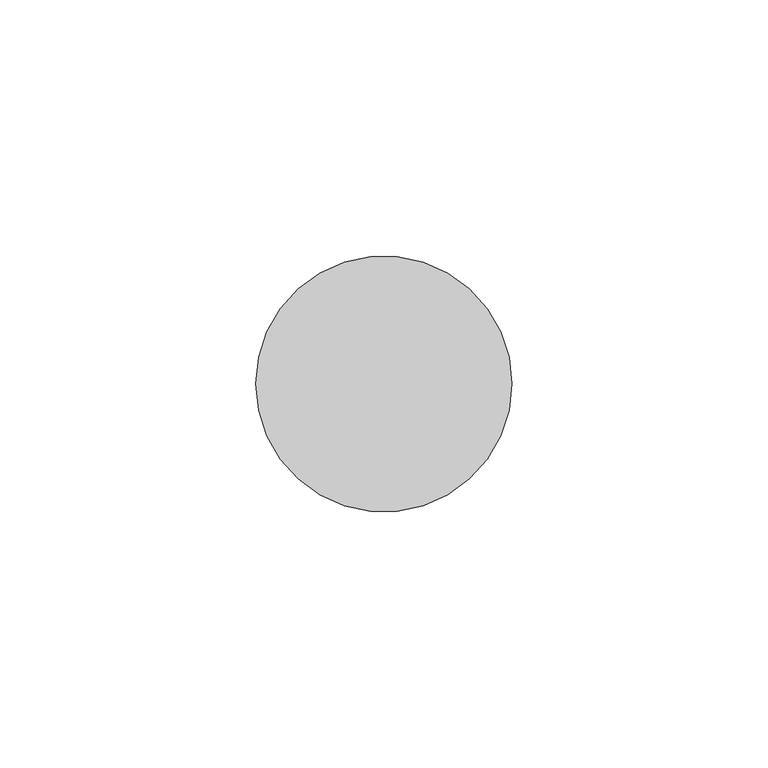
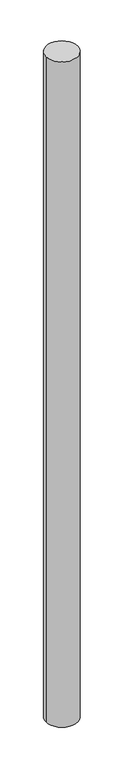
"""IFC4 building model written with IfcOpenShell, lengths in millimetres: member geometry, 圆形竖梃 : 25mm 半径."""

from ifc_helpers import new_model, si_unit, point, frame, frame_2d, origin, place, context, project, spatial, circle_curve, trimmed, segment, composite_curve, outline, extrude, source, transform, mapped, element, save


def member_cb4e50c7(model_context):
    return source(origin(), model_context, "Body", "SweptSolid", [
        extrude(outline(composite_curve([segment(trimmed(circle_curve(frame_2d((-25.0, 0.0)), 25.0), [point((0.0, 0.0))], [point((-50.0, 0.0))], False, "CARTESIAN"), True, "CONTINUOUS"), segment(trimmed(circle_curve(frame_2d((-25.0, 0.0)), 25.0), [point((-50.0, 0.0))], [point((0.0, 0.0))], False, "CARTESIAN"), True, "CONTINUOUS")], self_intersect=False)), frame((0.0, 0.0, -1100.0), z_axis=(0.0, 0.0, 1.0), x_axis=(1.0, 0.0, 0.0)), (0.0, 0.0, 1.0), 1100.0),
    ])


if __name__ == "__main__":
    model = new_model("IFC4")
    model_context = context("Model", 3, world=origin())
    ifc_project = project(units=[si_unit("LENGTHUNIT", "METRE", prefix="MILLI")], contexts=[model_context])
    site = spatial("IfcSite", under=ifc_project)
    building = spatial("IfcBuilding", under=site)
    placement = place(None, origin())
    member_shape = member_cb4e50c7(model_context)
    element("IfcMember", 1, ObjectType="圆形竖梃 : 25mm 半径", at=placement, inside=building, context=model_context, shape_type="MappedRepresentation", body=[
        mapped(member_shape, transform((0.0, 0.0, 0.0), x_axis=(1.0, 0.0, 0.0), y_axis=(0.0, 1.0, 0.0), z_axis=(0.0, 0.0, 1.0))),
    ])
    save(model, "model.ifc")
